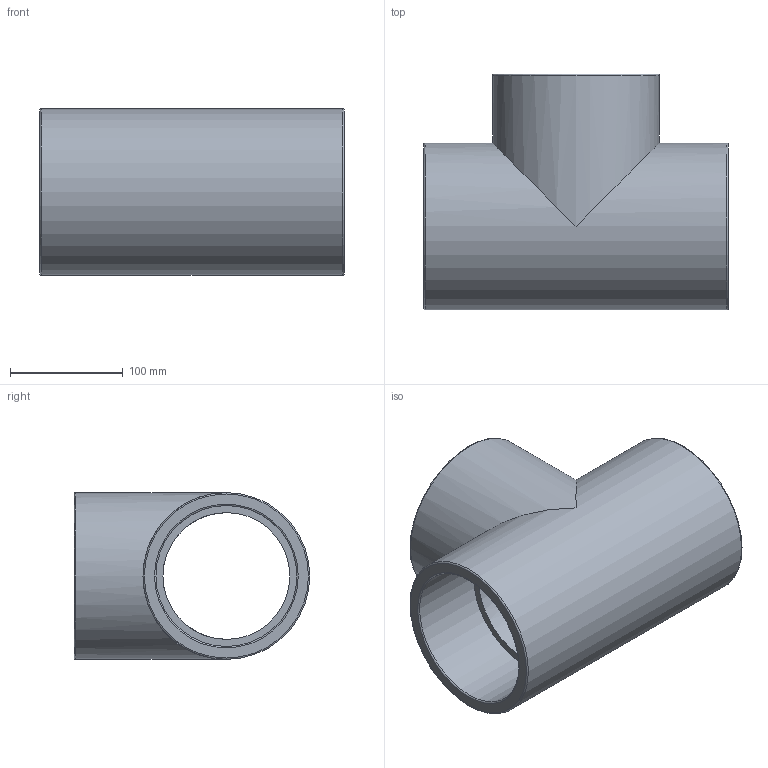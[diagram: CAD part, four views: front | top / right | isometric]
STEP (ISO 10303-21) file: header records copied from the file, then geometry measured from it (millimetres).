
FILE_DESCRIPTION(/* description */ ('PLASSON TEE-CEMENT PVC 125'),/* implementation_level */ '2;1');
FILE_NAME(/* name */ 'C:\Dropbox\KIMPROJECTS-Inventor\99-16-3568-Processing\PVC Catalog 2017\050400\050400125.ipt.stp',/* time_stamp */ '2017-12-07T15:54:29+02:00',/* author */ ('KIM'),/* organization */ (''),/* preprocessor_version */ 'ST-DEVELOPER v15.6',/* originating_system */ 'Autodesk Inventor 2015',/* authorisation */ '');
FILE_SCHEMA (('AUTOMOTIVE_DESIGN { 1 0 10303 214 3 1 1 }'));
Length unit declared in the file: millimetre
Products named in the file (1): 050400125
Bounding box: 270 x 209 x 148 mm (x, y, z)
Volume: 1852079.9 mm3; surface area: 290863.4 mm2
Topology: 1 solids, 1 shells, 19 faces, 43 edges, 28 vertices
Faces by surface type: cylinder 7, torus 6, plane 6
Full cylindrical faces by diameter (mm): 112.5 x2, 125 x3, 148 x2
Entity records: 446 total; most frequent: DIRECTION 84, CARTESIAN_POINT 64, ORIENTED_EDGE 44, AXIS2_PLACEMENT_3D 42, EDGE_LOOP 40, VERTEX_POINT 22, EDGE_CURVE 22, FACE_BOUND 21
